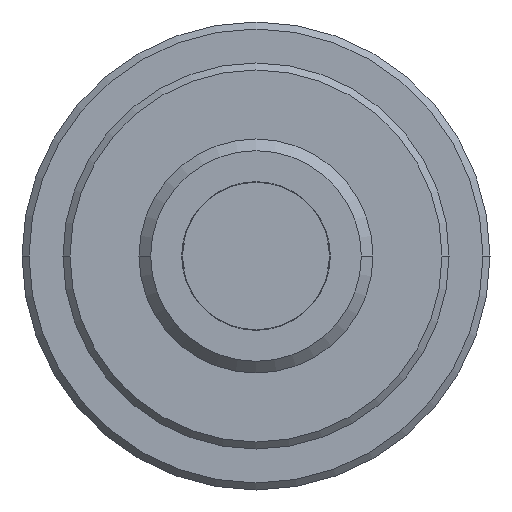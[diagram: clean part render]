
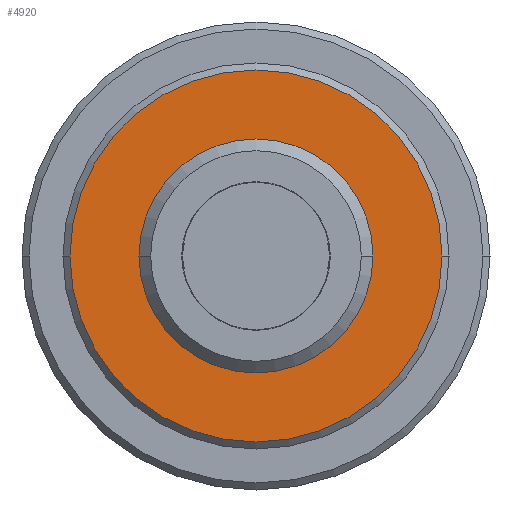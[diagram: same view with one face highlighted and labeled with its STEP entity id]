
A CAD part, left-side view. The second image highlights one B-rep face of the part: STEP entity #4920.
In plain terms, the highlighted planar face has unit normal (-1, 0, 0).
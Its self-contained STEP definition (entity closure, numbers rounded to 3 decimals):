
#4440=CARTESIAN_POINT('',(0.,-7.95,0.));
#4450=VERTEX_POINT('',#4440);
#4530=CARTESIAN_POINT('',(0.,7.95,
0.));
#4540=VERTEX_POINT('',#4530);
#4570=CARTESIAN_POINT('',(0.,0.,0.));
#4580=DIRECTION('',(1.,0.,0.));
#4590=DIRECTION('',(0.,1.,0.));
#4600=AXIS2_PLACEMENT_3D('',#4570,#4580,#4590);
#4610=CIRCLE('',#4600,7.95);
#4620=EDGE_CURVE('',#4450,#4540,#4610,.T.);
#4670=CARTESIAN_POINT('',(0.,6.425,0.));
#4680=DIRECTION('',(1.,0.,0.));
#4690=DIRECTION('',(0.,-1.,0.));
#4700=AXIS2_PLACEMENT_3D('',#4670,#4680,#4690);
#4710=PLANE('',#4700);
#4720=CARTESIAN_POINT('',(0.,0.,0.));
#4730=DIRECTION('',(1.,0.,0.));
#4740=DIRECTION('',(0.,1.,0.));
#4750=AXIS2_PLACEMENT_3D('',#4720,#4730,#4740);
#4760=CIRCLE('',#4750,4.9);
#4770=CARTESIAN_POINT('',(0.,4.9,0.));
#4780=VERTEX_POINT('',#4770);
#4790=CARTESIAN_POINT('',(0.,-4.9,0.));
#4800=VERTEX_POINT('',#4790);
#4810=EDGE_CURVE('',#4780,#4800,#4760,.T.);
#4820=ORIENTED_EDGE('',*,*,#4810,.T.);
#4830=EDGE_CURVE('',#4800,#4780,#4760,.T.);
#4840=ORIENTED_EDGE('',*,*,#4830,.T.);
#4850=EDGE_LOOP('',(#4840,#4820));
#4860=FACE_BOUND('',#4850,.T.);
#4870=EDGE_CURVE('',#4540,#4450,#4610,.T.);
#4880=ORIENTED_EDGE('',*,*,#4870,.F.);
#4890=ORIENTED_EDGE('',*,*,#4620,.F.);
#4900=EDGE_LOOP('',(#4890,#4880));
#4910=FACE_OUTER_BOUND('',#4900,.T.);
#4920=ADVANCED_FACE('',(#4860,#4910),#4710,.F.);
